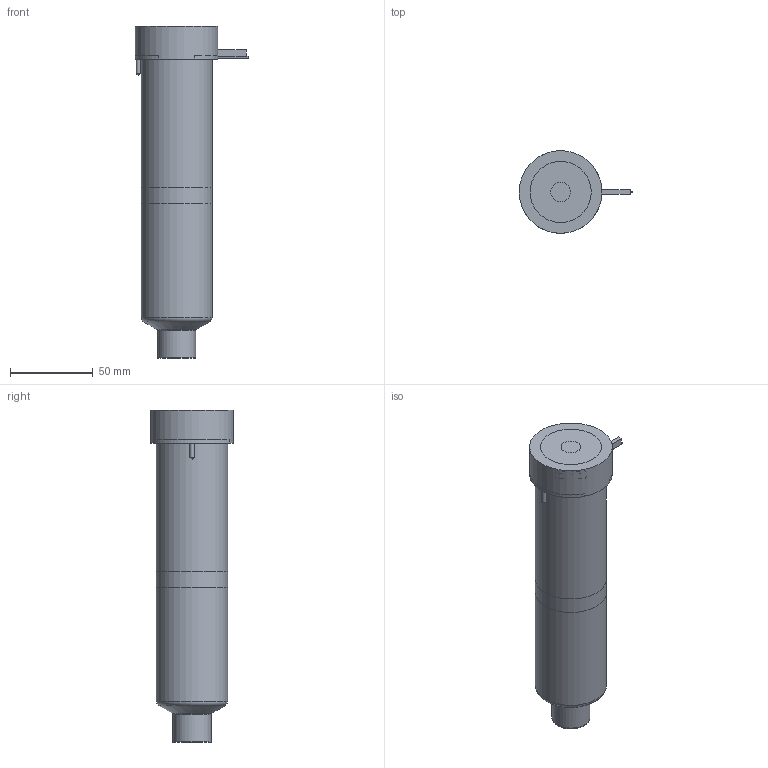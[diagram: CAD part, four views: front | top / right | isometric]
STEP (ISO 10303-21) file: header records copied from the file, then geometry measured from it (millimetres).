
FILE_DESCRIPTION(/* description */ (''),/* implementation_level */ '2;1');
FILE_NAME(/* name */ 'BXTSN-BXISN-BXOSN27175_250C_b',/* time_stamp */ '2007-01-25T15:53:03+13:00',/* author */ (''),/* organization */ (''),/* preprocessor_version */ 'ST-DEVELOPER v9',/* originating_system */ 'UGS - NX 4.0',/* authorisation */ '');
FILE_SCHEMA (('CONFIG_CONTROL_DESIGN'));
Length unit declared in the file: millimetre
Products named in the file (1): BXTSN-BXISN-BXOSN27175_250C_b
Bounding box: 68.6 x 50 x 200.79 mm (x, y, z)
Volume: 518499.5 mm3; surface area: 62857.1 mm2
Topology: 6 solids, 6 shells, 74 faces, 148 edges, 96 vertices
Faces by surface type: plane 33, cylinder 23, cone 9, torus 8, bspline 1
Full cylindrical faces by diameter (mm): 1 x3, 2 x1, 2.5 x2, 12 x1, 22.61 x1, 23.01 x2, 27.5 x1, 38.1 x1, 43 x2, 50 x1
Entity records: 1987 total; most frequent: CARTESIAN_POINT 481, DIRECTION 312, ORIENTED_EDGE 230, AXIS2_PLACEMENT_3D 137, EDGE_CURVE 115, EDGE_LOOP 110, VERTEX_POINT 90, ADVANCED_FACE 74
